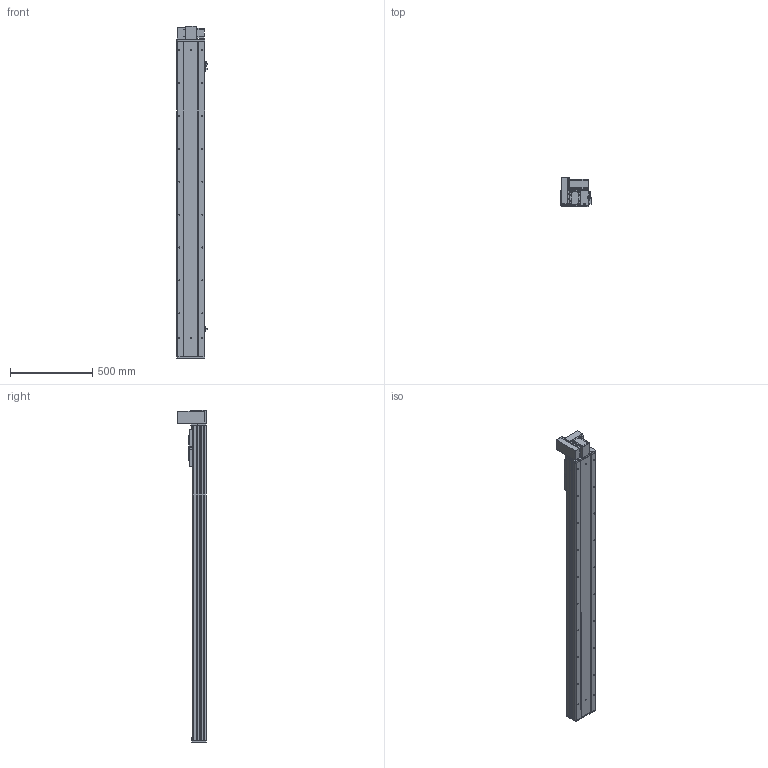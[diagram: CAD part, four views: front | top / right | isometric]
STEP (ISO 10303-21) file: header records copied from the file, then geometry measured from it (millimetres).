
FILE_DESCRIPTION (( 'STEP AP203' ), '1' );
FILE_NAME ('Y170CB-D105-S1600-UL-P400W.STEP', '2020-02-20T02:34:21', ( '微软用户' ), ( '微软中国' ), 'SwSTEP 2.0', 'SolidWorks 2017', '' );
FILE_SCHEMA (( 'CONFIG_CONTROL_DESIGN' ));
Length unit declared in the file: millimetre
Products named in the file (18): --70CB --喘謫眊楊擘啣-; 70B喘謫眊----; 70CB-耜裔啣-; Y1埴倛裔; 70C--詩湍揤踡え-; 17B-耜蚾蟀諉啣----; 70CB--耜裔; 00B-俋欶BM--163; 70C-雄赽釱-奻-; B-源倛裔啣; Y170CB-D105-S1600-UL-P400W; 0C--雄赽釱俋欶-170; 0B-萇儂楊擘啣; 70CB-詩湍--; san松下电机400不带刹车----; Y100-135俋离換覜ん--; 70CB-掛极-; Y170CB-陔俋离換覜結え---
Assembly tree (21 placements, depth 2):
  Y170CB-D105-S1600-UL-P400W
    B-源倛裔啣
    0B-萇儂楊擘啣
    san松下电机400不带刹车----
    70CB-掛极-
    --70CB --喘謫眊楊擘啣-
    70CB-耜裔啣-  x2
    70C--詩湍揤踡え-  x2
    70CB--耜裔
    70C-雄赽釱-奻-
    0C--雄赽釱俋欶-170
    70CB-詩湍--
    Y100-135俋离換覜ん--  x3
    Y170CB-陔俋离換覜結え---
    70B喘謫眊----
    Y1埴倛裔
    17B-耜蚾蟀諉啣----
    00B-俋欶BM--163
Bounding box: 183.5 x 174 x 2016 mm (x, y, z)
Volume: 8901970.5 mm3; surface area: 3203944.2 mm2
Topology: 21 solids, 21 shells, 1031 faces, 2765 edges, 1834 vertices
Faces by surface type: cylinder 545, plane 462, cone 24
Entity records: 32912 total; most frequent: CARTESIAN_POINT 6036, DIRECTION 5354, ORIENTED_EDGE 5012, EDGE_CURVE 2506, AXIS2_PLACEMENT_3D 1968, VERTEX_POINT 1664, LINE 1418, VECTOR 1418
